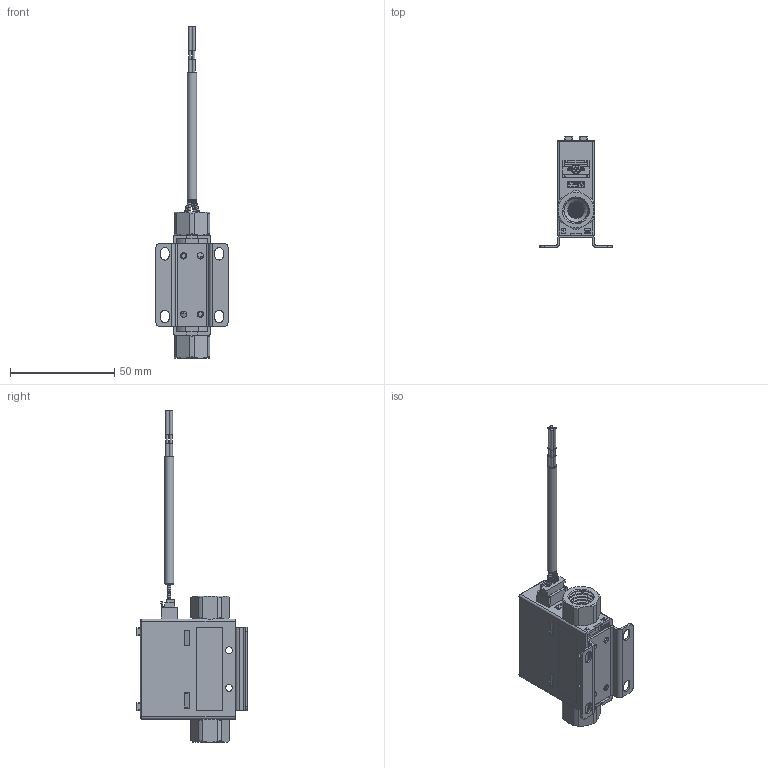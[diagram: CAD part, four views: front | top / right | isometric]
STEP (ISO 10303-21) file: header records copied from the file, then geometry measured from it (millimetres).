
FILE_DESCRIPTION( (''), '2;1');
FILE_NAME( 'QGKK_R3-4_R1-4_200L.step', '2023-06-19T17:09:49+08:00', (''), (''), '', '', '');
FILE_SCHEMA (('CONFIG_CONTROL_DESIGN'));
Products named in the file (1): QGKK R3-4_R1-4_200L
Bounding box: 34.6 x 53.5 x 159.3 mm (x, y, z)
Volume: 23192.9 mm3; surface area: 30748.2 mm2
Topology: 4 solids, 8 shells, 2342 faces, 7035 edges, 4689 vertices
Faces by surface type: plane 1354, cylinder 814, torus 76, cone 46, extrusion 38, bspline 11, sphere 3
Full cylindrical faces by diameter (mm): 0.5 x328, 1 x4, 1.5 x8, 2 x3, 2.2 x2, 2.6 x2, 3 x4, 3.3 x4, 4.5 x1, 8 x2, 9 x2, 9.5 x2, 10.5 x2, 12 x4, 12.5 x2, 14 x4
Entity records: 79999 total; most frequent: CARTESIAN_POINT 17779, DIRECTION 12600, ORIENTED_EDGE 12584, EDGE_CURVE 6292, VERTEX_POINT 4349, AXIS2_PLACEMENT_3D 4331, VECTOR 3938, LINE 3900
